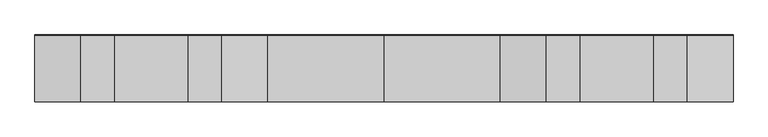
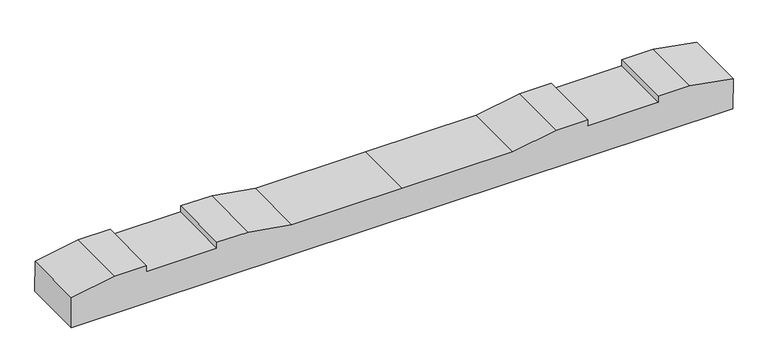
"""IFC4 building model written with IfcOpenShell, lengths in millimetres: proxy geometry, 轨枕-立面角度 : 轨枕-立面角度."""

from ifc_helpers import new_model, si_unit, frame, origin, place, context, project, spatial, polyline, outline, extrude, source, transform, mapped, element, save


def generic_models_a7439df7(model_context):
    return source(origin(), model_context, "Body", "SweptSolid", [
        extrude(outline(polyline([(0.0, 0.0), (2099.7669328, 0.0), (2099.7669328, -100.020689), (1961.8834664, -124.5), (1861.8834664, -124.5), (1861.8834664, -104.5), (1637.8834664, -104.5), (1637.8834664, -124.5), (1537.8834664, -124.5), (1399.8834664, -100.0), (1049.8834664, -100.0), (699.8834664, -100.0), (561.8834664, -124.5), (461.8834664, -124.5), (461.8834664, -104.5), (237.8834664, -104.5), (237.8834664, -124.5), (137.8834664, -124.5), (0.0, -100.020689), (0.0, 0.0)])), frame((-1049.8834664, -99.3847953, -105.0852628), z_axis=(0.0, 0.9999827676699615, 0.0058706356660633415), x_axis=(1.0, 0.0, 0.0)), (0.0, 0.0, 1.0), 200.0),
    ])


if __name__ == "__main__":
    model = new_model("IFC4")
    model_context = context("Model", 3, world=origin())
    ifc_project = project(units=[si_unit("LENGTHUNIT", "METRE", prefix="MILLI")], contexts=[model_context])
    site = spatial("IfcSite", under=ifc_project)
    building = spatial("IfcBuilding", under=site)
    placement = place(None, origin())
    generic_models_shape = generic_models_a7439df7(model_context)
    element("IfcBuildingElementProxy", 1, Name="轨枕-立面角度 : 轨枕-立面角度", ObjectType="轨枕-立面角度 : 轨枕-立面角度", at=placement, inside=building, context=model_context, shape_type="MappedRepresentation", body=[
        mapped(generic_models_shape, transform((0.0, 0.0, 0.0), x_axis=(1.0, 0.0, 0.0), y_axis=(0.0, 1.0, 0.0), z_axis=(0.0, 0.0, 1.0))),
    ])
    save(model, "model.ifc")
